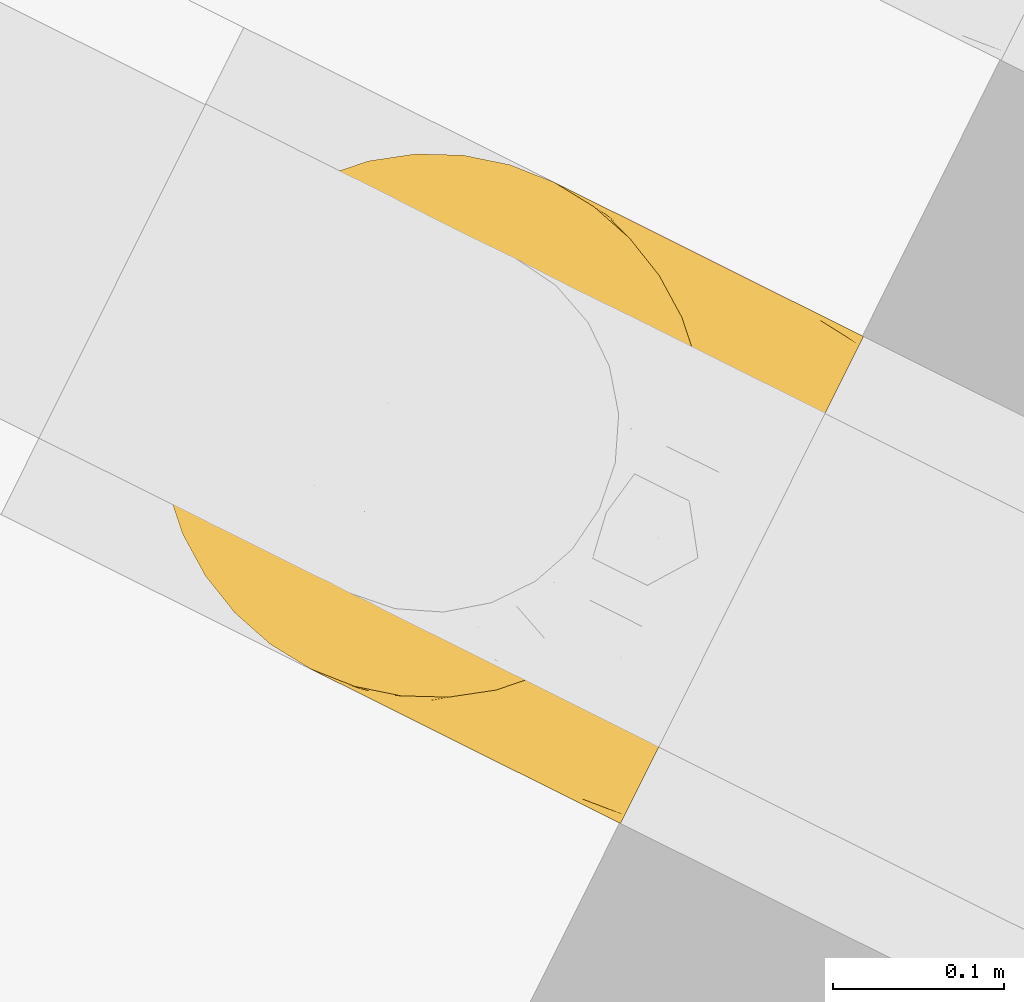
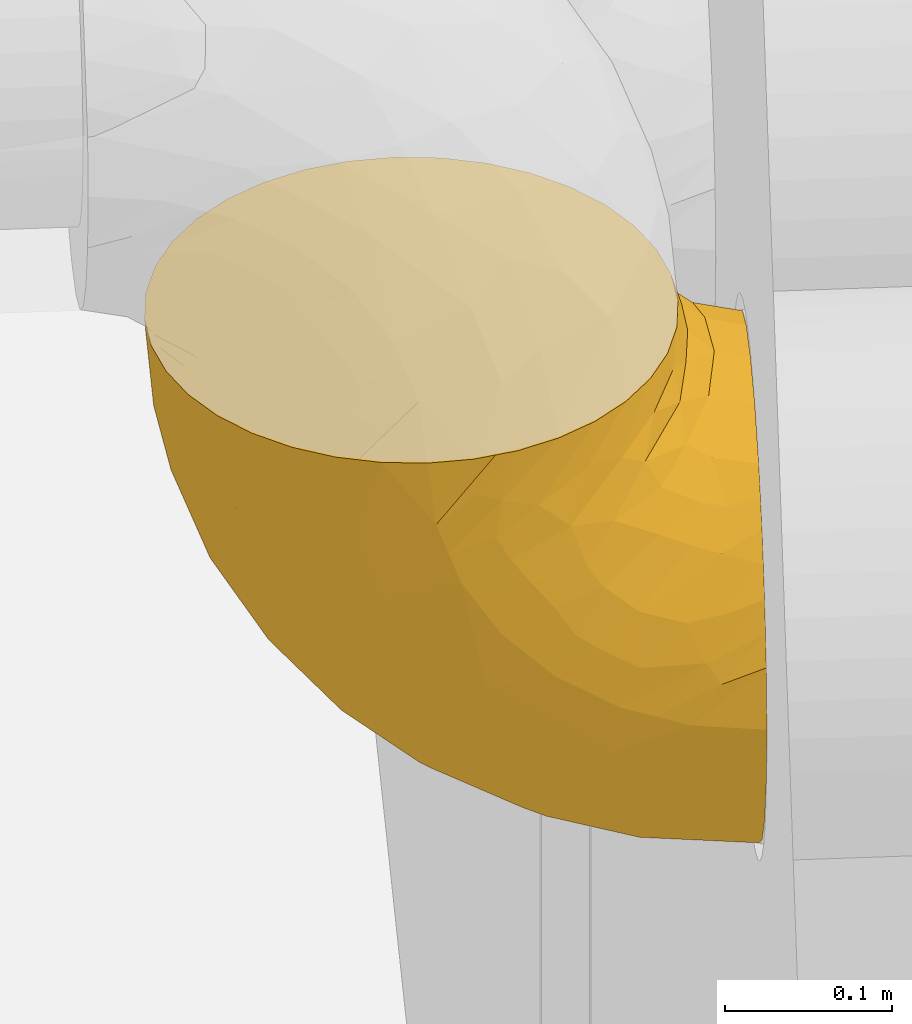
# One storey, part 45 of 91: 1 covering.
"""IFC2X3 building model written with IfcOpenShell, lengths in metres."""

from ifc_helpers import new_model, entity, si_unit, converted_unit, derived_unit, direction, frame, origin, place, context, subcontext, project, spatial, faceted_brep, element, save


model = new_model("IFC2X3")

# Units and contexts
model_context = context("Model", 3, precision=1e-05, world=origin(), true_north=direction((0.894925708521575, 0.446215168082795)))
context_of_model = context(None, 3, precision=1e-05, world=origin(), true_north=direction((0.894925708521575, 0.446215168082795)))
body_context = subcontext(model_context, "Body", "Model", "MODEL_VIEW")
ifc_project = project(units=[si_unit("LENGTHUNIT", "METRE"), si_unit("AREAUNIT", "SQUARE_METRE"), si_unit("VOLUMEUNIT", "CUBIC_METRE"), converted_unit("PLANEANGLEUNIT", "DEGREE", entity("IfcRatioMeasure", 0.0174532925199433), si_unit("PLANEANGLEUNIT", "RADIAN"), dimensions=[0, 0, 0, 0, 0, 0, 0]), si_unit("MASSUNIT", "GRAM", prefix="KILO"), si_unit("TIMEUNIT", "SECOND"), si_unit("FREQUENCYUNIT", "HERTZ"), si_unit("THERMODYNAMICTEMPERATUREUNIT", "DEGREE_CELSIUS"), derived_unit("THERMALTRANSMITTANCEUNIT", [(si_unit("MASSUNIT", "GRAM", prefix="KILO"), 1), (si_unit("THERMODYNAMICTEMPERATUREUNIT", "KELVIN"), -1), (si_unit("TIMEUNIT", "SECOND"), -3)]), derived_unit("VOLUMETRICFLOWRATEUNIT", [(si_unit("LENGTHUNIT", "METRE"), 3), (si_unit("TIMEUNIT", "SECOND"), -1)]), si_unit("ELECTRICCURRENTUNIT", "AMPERE"), si_unit("ELECTRICVOLTAGEUNIT", "VOLT"), si_unit("POWERUNIT", "WATT"), si_unit("FORCEUNIT", "NEWTON", prefix="KILO"), si_unit("ILLUMINANCEUNIT", "LUX"), si_unit("LUMINOUSFLUXUNIT", "LUMEN"), si_unit("LUMINOUSINTENSITYUNIT", "CANDELA"), si_unit("PRESSUREUNIT", "PASCAL")], contexts=[model_context, context_of_model])

# Site, building, storey
site_placement = place(None, frame((218.228324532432, 584.720189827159, 0.0), z_axis=(0.0, 0.0, 1.0), x_axis=(0.446215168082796, 0.894925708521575, 0.0)))
site = spatial("IfcSite", under=ifc_project, at=site_placement, Name="Default", CompositionType="ELEMENT")
building_placement = place(site_placement, origin())
building = spatial("IfcBuilding", under=site, at=building_placement, CompositionType="ELEMENT")
storey_placement = place(building_placement, origin())
storey = spatial("IfcBuildingStorey", under=building, at=storey_placement, Name="0 - Piano Terra", CompositionType="ELEMENT", Elevation=0.0)

# Covering
covering_placement = place(storey_placement, frame((-30.8033657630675, -5.00334083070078, 2.50885472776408)))
element("IfcCovering", 1, at=covering_placement, inside=storey, Name="Isolamento tubazione:Default", ObjectType="Isolamento tubazione:Default", PredefinedType="INSULATION", context=body_context, shape_type="Brep", body=[
    faceted_brep([(0.318271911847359, 0.232297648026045, 0.364145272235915), (0.311073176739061, 0.259164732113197, 0.364145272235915), (0.29931755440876, 0.284373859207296, 0.364145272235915), (0.283365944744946, 0.30715408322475, 0.364145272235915), (0.263703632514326, 0.326816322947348, 0.364145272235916), (0.240919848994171, 0.342769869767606, 0.364145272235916), (0.21571004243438, 0.354524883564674, 0.364145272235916), (0.188846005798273, 0.361722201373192, 0.364145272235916), (0.161145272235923, 0.364145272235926, 0.364145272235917), (0.133442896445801, 0.361721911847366, 0.364145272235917), (0.106575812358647, 0.354523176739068, 0.364145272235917), (0.0813666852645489, 0.342767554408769, 0.364145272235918), (0.0585864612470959, 0.326815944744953, 0.364145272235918), (0.0389242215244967, 0.307153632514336, 0.364145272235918), (0.0229706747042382, 0.284369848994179, 0.364145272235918), (0.0112156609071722, 0.259160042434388, 0.364145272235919), (0.00401834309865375, 0.232296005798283, 0.364145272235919), (0.00159527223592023, 0.204595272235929, 0.364145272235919), (0.00254231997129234, 0.193769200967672, 0.364145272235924), (0.0040186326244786, 0.176892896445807, 0.364145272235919), (0.00761800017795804, 0.163459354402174, 0.364145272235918), (0.0112173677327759, 0.150025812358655, 0.364145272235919), (0.0229729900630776, 0.124816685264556, 0.364145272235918), (0.0389245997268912, 0.102036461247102, 0.364145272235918), (0.058586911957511, 0.0823742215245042, 0.364145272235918), (0.0813706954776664, 0.0664206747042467, 0.364145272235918), (0.106580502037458, 0.0546656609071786, 0.364145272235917), (0.133444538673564, 0.0474683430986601, 0.364145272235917), (0.161145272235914, 0.0450452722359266, 0.364145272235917), (0.188847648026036, 0.0474686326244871, 0.364145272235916), (0.21571473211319, 0.0546673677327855, 0.364145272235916), (0.240923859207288, 0.066422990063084, 0.364145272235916), (0.263704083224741, 0.0823745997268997, 0.364145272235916), (0.28336632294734, 0.102036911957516, 0.364145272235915), (0.299319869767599, 0.124820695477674, 0.364145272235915), (0.311074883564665, 0.150030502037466, 0.364145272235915), (0.318272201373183, 0.17689453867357, 0.364145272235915), (0.319748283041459, 0.193769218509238, 0.36414527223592), (0.320695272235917, 0.204595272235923, 0.364145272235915), (0.11985069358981, 0.00159527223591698, 0.315258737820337), (0.0813702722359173, 0.00159527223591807, 0.299319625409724), (0.0648483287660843, 0.00159527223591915, 0.286641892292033), (0.0483263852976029, 0.00159527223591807, 0.27396415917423), (0.0356486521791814, 0.00159527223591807, 0.25744221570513), (0.0229709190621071, 0.00159527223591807, 0.240920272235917), (0.0150013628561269, 0.00159527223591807, 0.221680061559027), (0.00703180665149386, 0.00159527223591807, 0.202439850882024), (0.00448125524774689, 0.00159527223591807, 0.183066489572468), (0.00303826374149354, 0.00159527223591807, 0.17210588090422), (0.0015952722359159, 0.00159527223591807, 0.161145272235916), (0.00703180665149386, 0.00159527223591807, 0.119850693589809), (0.0229709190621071, 0.00159527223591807, 0.0813702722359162), (0.0483263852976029, 0.00159527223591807, 0.0483263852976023), (0.0813702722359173, 0.00159527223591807, 0.0229709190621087), (0.11985069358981, 0.00159527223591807, 0.00703180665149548), (0.161145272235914, 0.00159527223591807, 0.0015952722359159), (0.202439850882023, 0.00159527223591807, 0.00703180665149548), (0.240920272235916, 0.00159527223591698, 0.0229709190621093), (0.27396415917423, 0.00159527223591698, 0.0483263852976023), (0.299319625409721, 0.00159527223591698, 0.0813702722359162), (0.315258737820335, 0.00159527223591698, 0.119850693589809), (0.320695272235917, 0.0015952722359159, 0.161145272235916), (0.319252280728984, 0.0015952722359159, 0.172105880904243), (0.31780928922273, 0.0015952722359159, 0.183066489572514), (0.315258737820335, 0.0015952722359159, 0.202439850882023), (0.307289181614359, 0.0015952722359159, 0.221680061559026), (0.299319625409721, 0.0015952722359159, 0.240920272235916), (0.286641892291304, 0.00159527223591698, 0.257442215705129), (0.27396415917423, 0.00159527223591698, 0.27396415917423), (0.240920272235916, 0.00159527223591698, 0.299319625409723), (0.202439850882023, 0.00159527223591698, 0.315258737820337), (0.161145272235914, 0.00159527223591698, 0.320695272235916), (0.201172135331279, 0.0900951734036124, 0.0178267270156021), (0.161145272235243, 0.0645514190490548, 0.00710322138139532), (0.161145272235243, 0.125594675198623, 0.0234597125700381), (0.306467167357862, 0.173037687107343, 0.1570364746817), (0.317175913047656, 0.168703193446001, 0.197037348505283), (0.312260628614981, 0.108066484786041, 0.133329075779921), (0.320695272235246, 0.128163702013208, 0.205433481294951), (0.320695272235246, 0.108918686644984, 0.193341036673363), (0.320695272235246, 0.0896736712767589, 0.181248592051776), (0.228888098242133, 0.142688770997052, 0.0466279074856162), (0.198715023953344, 0.150576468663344, 0.038547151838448), (0.19714418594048, 0.206213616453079, 0.0698536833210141), (0.265288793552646, 0.273081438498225, 0.18754088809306), (0.279139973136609, 0.221076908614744, 0.14466362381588), (0.251711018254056, 0.234774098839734, 0.124519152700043), (0.227840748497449, 0.0599626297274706, 0.0211347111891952), (0.283559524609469, 0.0515208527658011, 0.0629270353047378), (0.309327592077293, 0.215857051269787, 0.213108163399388), (0.161145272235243, 0.182870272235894, 0.0501677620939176), (0.161145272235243, 0.234637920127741, 0.086415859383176), (0.188773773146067, 0.25625245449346, 0.109488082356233), (0.161145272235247, 0.279324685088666, 0.131102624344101), (0.320695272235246, 0.199505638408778, 0.318973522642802), (0.317175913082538, 0.218772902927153, 0.270957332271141), (0.277616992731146, 0.115600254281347, 0.073672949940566), (0.296288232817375, 0.136729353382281, 0.110033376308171), (0.304299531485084, 0.0646646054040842, 0.0980689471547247), (0.222697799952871, 0.342089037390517, 0.282272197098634), (0.198695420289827, 0.327172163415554, 0.21510627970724), (0.190673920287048, 0.350066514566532, 0.274594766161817), (0.320695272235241, 0.0467670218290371, 0.166234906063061), (0.320695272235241, 0.0239518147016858, 0.163664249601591), (0.320695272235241, 0.0127735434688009, 0.162404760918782), (0.252196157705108, 0.0737158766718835, 0.0380054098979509), (0.161145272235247, 0.342280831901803, 0.24014586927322), (0.161145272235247, 0.315572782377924, 0.182870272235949), (0.320695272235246, 0.0682203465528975, 0.173741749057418), (0.301023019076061, 0.273493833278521, 0.29833714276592), (0.219562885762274, 0.250122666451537, 0.115617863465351), (0.204386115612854, 0.292585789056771, 0.158055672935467), (0.233310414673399, 0.281138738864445, 0.161450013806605), (0.282350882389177, 0.288377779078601, 0.255263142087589), (0.268310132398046, 0.316159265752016, 0.29917824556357), (0.289509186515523, 0.251447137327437, 0.202178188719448), (0.23979758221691, 0.309557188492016, 0.215828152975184), (0.161145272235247, 0.358637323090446, 0.301189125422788), (0.320695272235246, 0.203335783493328, 0.352967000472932), (0.320695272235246, 0.202076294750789, 0.341788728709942), (0.320695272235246, 0.184491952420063, 0.27606687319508), (0.320695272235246, 0.172399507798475, 0.256821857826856), (0.320695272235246, 0.160307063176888, 0.237576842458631), (0.320695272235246, 0.19199879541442, 0.297520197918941), (0.320695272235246, 0.144235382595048, 0.221505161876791), (0.234514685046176, 0.199279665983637, 0.0817891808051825), (0.267559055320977, 0.180304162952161, 0.0964337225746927), (0.255020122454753, 0.141814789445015, 0.0631976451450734), (0.193767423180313, 0.0408292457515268, 0.338594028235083), (0.317837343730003, 0.0284627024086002, 0.193308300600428), (0.302389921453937, 0.128182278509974, 0.340390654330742), (0.315096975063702, 0.0376598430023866, 0.207127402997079), (0.29037189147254, 0.0979970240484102, 0.312375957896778), (0.268216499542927, 0.0829606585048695, 0.34056846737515), (0.272627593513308, 0.0787272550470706, 0.320022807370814), (0.315587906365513, 0.0951853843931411, 0.230747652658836), (0.313218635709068, 0.107494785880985, 0.251331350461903), (0.302643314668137, 0.080495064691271, 0.261732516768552), (0.314805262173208, 0.155605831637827, 0.320598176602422), (0.242685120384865, 0.0312638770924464, 0.305346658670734), (0.267865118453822, 0.0260038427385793, 0.283356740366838), (0.269450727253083, 0.0467246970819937, 0.291124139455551), (0.296967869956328, 0.112391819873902, 0.319955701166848), (0.310493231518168, 0.123613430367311, 0.282412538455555), (0.315769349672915, 0.148232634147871, 0.291466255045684), (0.263416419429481, 0.0620352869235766, 0.310915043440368), (0.292249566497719, 0.0904636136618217, 0.295862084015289), (0.246211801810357, 0.0646338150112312, 0.338596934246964), (0.28908278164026, 0.0541637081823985, 0.270182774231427), (0.203370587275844, 0.0263992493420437, 0.321725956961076), (0.224672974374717, 0.0462280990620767, 0.329269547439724), (0.317566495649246, 0.13311650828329, 0.253989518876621), (0.318548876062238, 0.148702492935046, 0.265864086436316), (0.213089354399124, 0.0508973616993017, 0.347170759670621), (0.317379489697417, 0.168975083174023, 0.330940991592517), (0.28622547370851, 0.0698164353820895, 0.285715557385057), (0.291795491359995, 0.0207775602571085, 0.25438796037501), (0.161145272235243, 0.03922407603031, 0.342420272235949), (0.161145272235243, 0.0233202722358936, 0.326516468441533), (0.291152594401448, 0.0360215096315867, 0.259133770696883), (0.317781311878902, 0.0724405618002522, 0.206704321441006), (0.314129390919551, 0.0762577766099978, 0.22523919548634), (0.305217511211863, 0.0687110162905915, 0.247647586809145), (0.304103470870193, 0.0261891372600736, 0.234299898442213), (0.309107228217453, 0.110544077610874, 0.27105093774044), (0.308311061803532, 0.0504309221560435, 0.231479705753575), (0.0481611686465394, 0.0854589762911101, 0.330538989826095), (0.0301900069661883, 0.0913301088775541, 0.29736352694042), (0.0185577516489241, 0.117856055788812, 0.302889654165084), (0.130051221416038, 0.0421616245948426, 0.341397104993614), (0.119520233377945, 0.0292129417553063, 0.323699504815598), (0.0579185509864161, 0.0219615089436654, 0.285393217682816), (0.0377646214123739, 0.0268437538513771, 0.265485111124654), (0.0138743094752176, 0.0982324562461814, 0.26061958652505), (0.00429194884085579, 0.116013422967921, 0.23333483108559), (0.0131660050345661, 0.0770762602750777, 0.242279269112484), (0.00537209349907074, 0.142677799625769, 0.272032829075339), (0.01509706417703, 0.10861776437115, 0.275816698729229), (0.00159527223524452, 0.17239950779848, 0.256821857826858), (0.00497002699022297, 0.154525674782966, 0.28908419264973), (0.00159527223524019, 0.0127735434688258, 0.162404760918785), (0.00159527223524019, 0.0467670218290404, 0.166234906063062), (0.00159527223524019, 0.0239518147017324, 0.163664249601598), (0.0564962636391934, 0.0387154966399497, 0.290396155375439), (0.037803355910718, 0.0449983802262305, 0.272069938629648), (0.00445320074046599, 0.0284627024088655, 0.193308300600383), (0.110600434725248, 0.0511194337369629, 0.349416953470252), (0.0781104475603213, 0.0644557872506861, 0.341663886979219), (0.100177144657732, 0.0476548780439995, 0.333077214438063), (0.0143592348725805, 0.049227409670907, 0.231998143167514), (0.0184044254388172, 0.0255805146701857, 0.234630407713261), (0.0568485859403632, 0.0713370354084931, 0.320526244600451), (0.00159527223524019, 0.0682203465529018, 0.17374174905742), (0.0365446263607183, 0.0636793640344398, 0.281525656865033), (0.007193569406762, 0.0376598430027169, 0.207127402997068), (0.00159527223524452, 0.203335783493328, 0.352967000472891), (0.00159527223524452, 0.202076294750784, 0.341788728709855), (0.00159527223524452, 0.199505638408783, 0.318973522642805), (0.0326636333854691, 0.106279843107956, 0.335998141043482), (0.00538278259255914, 0.128674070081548, 0.253584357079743), (0.00159527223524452, 0.144235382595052, 0.221505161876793), (0.0136433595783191, 0.137474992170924, 0.322298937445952), (0.0807011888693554, 0.0296081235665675, 0.305254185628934), (0.00159527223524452, 0.184491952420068, 0.276066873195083), (0.00159527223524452, 0.191998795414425, 0.297520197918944), (0.0040115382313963, 0.175110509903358, 0.338929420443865), (0.00708777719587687, 0.159628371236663, 0.330875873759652), (0.00434202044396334, 0.101389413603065, 0.222190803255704), (0.00159527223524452, 0.0896736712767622, 0.181248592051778), (0.0809621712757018, 0.0449504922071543, 0.315633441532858), (0.0539826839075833, 0.0615544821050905, 0.30418600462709), (0.00468534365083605, 0.162967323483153, 0.305344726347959), (0.00426342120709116, 0.0775658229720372, 0.207669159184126), (0.00159527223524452, 0.160307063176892, 0.237576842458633), (0.00159527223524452, 0.128163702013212, 0.205433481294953), (0.00159527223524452, 0.108918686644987, 0.193341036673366), (0.00511463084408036, 0.16870319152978, 0.197037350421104), (0.133516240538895, 0.256252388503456, 0.109488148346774), (0.11790368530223, 0.292585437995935, 0.158055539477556), (0.0185835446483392, 0.0858702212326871, 0.10275453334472), (0.0446735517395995, 0.115600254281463, 0.0736729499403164), (0.0387310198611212, 0.0515208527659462, 0.0629270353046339), (0.00511463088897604, 0.0947832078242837, 0.146967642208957), (0.0539801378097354, 0.31615869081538, 0.299176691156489), (0.021265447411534, 0.273489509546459, 0.298335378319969), (0.0096024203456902, 0.23143538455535, 0.258614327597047), (0.0705791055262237, 0.261389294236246, 0.153669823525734), (0.0431505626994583, 0.22107690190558, 0.144663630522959), (0.0425043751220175, 0.261435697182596, 0.195668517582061), (0.10272672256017, 0.250122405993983, 0.11561812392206), (0.0713886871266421, 0.197311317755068, 0.0923747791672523), (0.125145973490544, 0.206213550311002, 0.0698537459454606), (0.0946001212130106, 0.0896994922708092, 0.0274722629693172), (0.0700943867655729, 0.0737158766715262, 0.0380054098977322), (0.131839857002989, 0.151012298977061, 0.0367980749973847), (0.0972173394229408, 0.204366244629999, 0.0798697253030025), (0.0934024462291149, 0.142688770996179, 0.046627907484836), (0.121118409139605, 0.0900951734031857, 0.0178267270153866), (0.0255526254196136, 0.190362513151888, 0.14784316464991), (0.00962930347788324, 0.249198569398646, 0.312211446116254), (0.067361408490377, 0.129404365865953, 0.0576493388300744), (0.0824907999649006, 0.309556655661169, 0.21582987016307), (0.0995884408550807, 0.342087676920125, 0.282274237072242), (0.123593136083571, 0.32717180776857, 0.215106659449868), (0.0129629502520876, 0.152632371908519, 0.149883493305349), (0.0397068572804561, 0.168253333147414, 0.106934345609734), (0.0399379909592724, 0.288376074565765, 0.255264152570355), (0.131613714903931, 0.350067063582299, 0.274599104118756), (0.0159523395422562, 0.209361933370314, 0.193053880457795), (0.0240614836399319, 0.253495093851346, 0.23161814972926)], [[[0, 1, 2, 3, 4, 5, 6, 7, 8, 9, 10, 11, 12, 13, 14, 15, 16, 17, 18, 19, 20, 21, 22, 23, 24, 25, 26, 27, 28, 29, 30, 31, 32, 33, 34, 35, 36, 37, 38]], [[39, 40, 41, 42, 43, 44, 45, 46, 47, 48, 49, 50, 51, 52, 53, 54, 55, 56, 57, 58, 59, 60, 61, 62, 63, 64, 65, 66, 67, 68, 69, 70, 71]], [[72, 73, 74]], [[73, 56, 55]], [[75, 76, 77]], [[76, 78, 79, 80]], [[81, 82, 83]], [[84, 85, 86]], [[87, 56, 72]], [[88, 59, 58]], [[89, 76, 75]], [[83, 82, 90]], [[91, 83, 90]], [[92, 91, 93]], [[0, 94, 95]], [[96, 97, 98]], [[99, 100, 101]], [[60, 102, 103, 104, 61]], [[58, 57, 105]], [[106, 100, 107]], [[98, 60, 59]], [[77, 80, 108, 102]], [[2, 1, 109]], [[102, 60, 77]], [[110, 111, 112]], [[89, 95, 76]], [[76, 80, 77]], [[91, 92, 83]], [[109, 113, 114]], [[115, 109, 89]], [[111, 107, 100]], [[109, 0, 95]], [[5, 99, 6]], [[105, 96, 88]], [[7, 6, 101]], [[99, 5, 114]], [[99, 114, 116]], [[99, 101, 6]], [[82, 81, 72]], [[4, 114, 5]], [[113, 116, 114]], [[117, 8, 7]], [[117, 101, 106]], [[114, 3, 2]], [[0, 38, 118, 119, 94]], [[95, 120, 121, 122]], [[110, 112, 86]], [[85, 84, 115]], [[85, 75, 97]], [[95, 94, 123, 120]], [[116, 112, 111]], [[76, 95, 122]], [[56, 73, 72]], [[76, 122, 124, 78]], [[99, 116, 100]], [[3, 114, 4]], [[2, 109, 114]], [[81, 105, 87]], [[125, 83, 110]], [[92, 111, 110]], [[0, 109, 1]], [[125, 126, 127]], [[89, 109, 95]], [[97, 75, 77]], [[115, 75, 85]], [[98, 97, 77]], [[97, 96, 126]], [[93, 107, 111]], [[83, 92, 110]], [[111, 92, 93]], [[116, 111, 100]], [[60, 98, 77]], [[98, 59, 88]], [[87, 105, 57]], [[105, 81, 127]], [[84, 112, 116]], [[112, 84, 86]], [[116, 113, 84]], [[115, 84, 113]], [[126, 86, 85]], [[125, 110, 86]], [[97, 126, 85]], [[127, 126, 96]], [[126, 125, 86]], [[83, 125, 81]], [[109, 115, 113]], [[75, 115, 89]], [[105, 127, 96]], [[125, 127, 81]], [[106, 101, 100]], [[7, 101, 117]], [[105, 88, 58]], [[98, 88, 96]], [[72, 74, 82]], [[90, 82, 74]], [[56, 87, 57]], [[81, 87, 72]], [[104, 103, 102, 64, 63, 62, 61]], [[29, 28, 128]], [[64, 129, 65]], [[130, 34, 33]], [[66, 65, 131]], [[102, 129, 64]], [[132, 133, 134]], [[135, 136, 137]], [[130, 138, 34]], [[139, 140, 141]], [[142, 143, 144]], [[134, 145, 146]], [[147, 31, 30]], [[141, 140, 148]], [[149, 71, 70]], [[70, 69, 139]], [[142, 32, 133]], [[134, 133, 147]], [[150, 128, 149]], [[136, 124, 151]], [[151, 122, 152]], [[147, 153, 150]], [[142, 33, 32]], [[30, 153, 147]], [[94, 35, 154]], [[138, 123, 154]], [[119, 118, 38, 37, 36, 94]], [[149, 70, 139]], [[145, 155, 146]], [[94, 36, 35]], [[156, 68, 67]], [[138, 130, 144]], [[157, 128, 28]], [[150, 153, 128]], [[154, 34, 138]], [[138, 120, 123]], [[149, 128, 158]], [[31, 133, 32]], [[31, 147, 133]], [[30, 29, 153]], [[145, 147, 150]], [[159, 148, 140]], [[144, 120, 138]], [[160, 131, 80]], [[161, 135, 162]], [[108, 131, 129]], [[80, 131, 108]], [[160, 163, 131]], [[150, 139, 145]], [[155, 141, 148]], [[142, 132, 143]], [[152, 144, 143]], [[108, 129, 102]], [[131, 65, 129]], [[29, 128, 153]], [[158, 128, 157]], [[149, 158, 71]], [[139, 150, 149]], [[164, 136, 151]], [[144, 152, 121]], [[164, 155, 137]], [[135, 78, 136]], [[145, 134, 147]], [[132, 134, 146]], [[143, 132, 146]], [[133, 132, 142]], [[33, 142, 130]], [[144, 130, 142]], [[141, 145, 139]], [[137, 155, 148]], [[137, 162, 135]], [[137, 136, 164]], [[162, 137, 148]], [[159, 162, 148]], [[160, 79, 161]], [[79, 78, 135]], [[161, 162, 165]], [[160, 161, 165]], [[79, 135, 161]], [[160, 165, 163]], [[79, 160, 80]], [[145, 141, 155]], [[140, 139, 69]], [[69, 68, 140]], [[159, 165, 162]], [[140, 68, 159]], [[67, 66, 163]], [[156, 159, 68]], [[131, 163, 66]], [[156, 165, 159]], [[67, 163, 156]], [[165, 156, 163]], [[121, 152, 122]], [[121, 120, 144]], [[151, 152, 143]], [[164, 151, 143]], [[143, 146, 164]], [[124, 136, 78]], [[124, 122, 151]], [[164, 146, 155]], [[94, 154, 123]], [[34, 154, 35]], [[24, 166, 25]], [[167, 166, 168]], [[158, 169, 170]], [[41, 171, 172]], [[158, 157, 169]], [[173, 174, 175]], [[168, 176, 177]], [[170, 71, 158]], [[178, 176, 179]], [[171, 41, 40]], [[180, 49, 48, 47, 46, 181, 182]], [[171, 183, 184]], [[46, 45, 185]], [[186, 187, 188]], [[172, 42, 41]], [[189, 190, 172]], [[191, 188, 187]], [[185, 192, 181]], [[191, 187, 166]], [[184, 183, 193]], [[27, 26, 186]], [[194, 45, 44]], [[18, 17, 195, 196, 197, 19]], [[187, 26, 25]], [[166, 187, 25]], [[24, 198, 166]], [[199, 200, 174]], [[23, 22, 201]], [[23, 198, 24]], [[186, 169, 27]], [[40, 39, 202]], [[203, 178, 179]], [[201, 168, 198]], [[204, 205, 197]], [[204, 206, 205]], [[175, 184, 193]], [[205, 20, 197]], [[174, 207, 175]], [[194, 208, 192]], [[71, 170, 39]], [[183, 209, 210]], [[166, 198, 168]], [[169, 28, 27]], [[167, 210, 191]], [[201, 198, 23]], [[203, 179, 211]], [[21, 206, 22]], [[185, 181, 46]], [[189, 194, 190]], [[194, 189, 212]], [[187, 186, 26]], [[169, 186, 188]], [[169, 188, 170]], [[169, 157, 28]], [[209, 170, 188]], [[39, 170, 202]], [[45, 194, 185]], [[192, 185, 194]], [[211, 204, 203]], [[201, 22, 206]], [[177, 176, 199]], [[193, 167, 173]], [[199, 176, 213]], [[213, 176, 178]], [[179, 168, 201]], [[200, 214, 174]], [[177, 199, 173]], [[199, 213, 200]], [[168, 179, 176]], [[179, 201, 211]], [[201, 206, 211]], [[204, 211, 206]], [[212, 175, 207]], [[199, 174, 173]], [[207, 174, 214]], [[172, 175, 189]], [[214, 215, 207]], [[208, 212, 215]], [[207, 215, 212]], [[194, 212, 208]], [[212, 189, 175]], [[167, 191, 166]], [[191, 210, 209]], [[20, 205, 21]], [[20, 19, 197]], [[206, 21, 205]], [[202, 183, 171]], [[202, 171, 40]], [[171, 184, 172]], [[175, 172, 184]], [[43, 172, 190]], [[43, 190, 44]], [[42, 172, 43]], [[194, 44, 190]], [[209, 183, 202]], [[193, 183, 210]], [[167, 193, 210]], [[175, 193, 173]], [[170, 209, 202]], [[191, 209, 188]], [[173, 167, 177]], [[168, 177, 167]], [[216, 208, 215, 214]], [[93, 217, 218]], [[219, 220, 221]], [[222, 49, 180, 182, 181]], [[222, 208, 216]], [[223, 224, 14]], [[203, 225, 216]], [[226, 227, 228]], [[14, 224, 15]], [[216, 214, 200, 213]], [[229, 230, 226]], [[217, 231, 229]], [[232, 53, 233]], [[90, 74, 234]], [[73, 55, 54]], [[223, 12, 11]], [[52, 51, 221]], [[235, 236, 230]], [[52, 233, 53]], [[74, 73, 237]], [[227, 238, 228]], [[236, 231, 234]], [[16, 15, 239]], [[234, 74, 237]], [[233, 240, 236]], [[231, 91, 90]], [[225, 203, 204, 197]], [[241, 242, 243]], [[222, 181, 192, 208]], [[107, 93, 218]], [[239, 197, 16]], [[16, 197, 196, 195, 17]], [[232, 54, 53]], [[244, 222, 216]], [[50, 222, 219]], [[245, 230, 240]], [[246, 224, 223]], [[243, 106, 107]], [[51, 50, 219]], [[14, 13, 223]], [[73, 54, 237]], [[11, 242, 223]], [[12, 223, 13]], [[247, 243, 242]], [[11, 10, 242]], [[243, 218, 241]], [[106, 243, 247]], [[91, 217, 93]], [[247, 9, 117]], [[49, 222, 50]], [[8, 117, 9]], [[248, 216, 225]], [[219, 222, 244]], [[242, 241, 223]], [[228, 248, 249]], [[244, 245, 219]], [[10, 9, 247]], [[244, 216, 248]], [[245, 244, 238]], [[216, 213, 178, 203]], [[241, 246, 223]], [[249, 224, 246]], [[239, 224, 225]], [[249, 225, 224]], [[238, 244, 248]], [[231, 217, 91]], [[218, 217, 229]], [[218, 229, 226]], [[107, 218, 243]], [[249, 246, 228]], [[248, 225, 249]], [[233, 52, 221]], [[232, 233, 236]], [[224, 239, 15]], [[197, 239, 225]], [[246, 241, 228]], [[231, 235, 229]], [[228, 241, 226]], [[218, 226, 241]], [[230, 236, 240]], [[227, 226, 230]], [[228, 238, 248]], [[245, 238, 227]], [[230, 245, 227]], [[219, 245, 220]], [[247, 242, 10]], [[106, 247, 117]], [[219, 221, 51]], [[233, 221, 220]], [[236, 234, 237]], [[90, 234, 231]], [[233, 220, 240]], [[240, 220, 245]], [[236, 237, 232]], [[232, 237, 54]], [[236, 235, 231]], [[230, 229, 235]]]),
])

save(model, "model.ifc")
